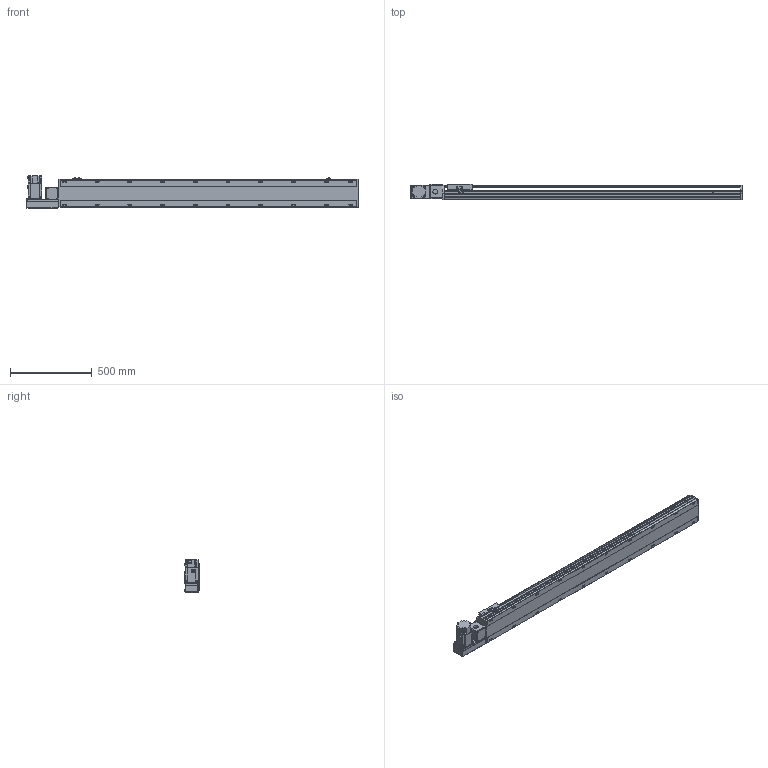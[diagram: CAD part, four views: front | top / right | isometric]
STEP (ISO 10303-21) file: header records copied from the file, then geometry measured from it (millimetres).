
FILE_DESCRIPTION( ( 'STEP AP214' ), '1' );
FILE_NAME( 'x:/temp/worker_2/temp/exporttempdir_1320_71_joOHi/format_0/PBS170-P40-S1550-L-T75-C1-N(0).stp', '2022-06-07T06:56:17', ( 'License CC BY-ND 4.0' ), ( 'CADENAS' ), ' ', 'PARTsolutions', ' ' );
FILE_SCHEMA( ( 'AUTOMOTIVE_DESIGN { 1 0 10303 214 1 1 1 1 }' ) );
Length unit declared in the file: millimetre
Products named in the file (7): PBS170-P40-S1550-L-T75-C1-N(0); _PBS170-S1550()_body; _PBS170T-L_motors; _T75-p1; _PBS170_sliser; _PBS170_plant; _PBS170_sensor
Assembly tree (8 placements, depth 2):
  PBS170-P40-S1550-L-T75-C1-N(0)
    _PBS170-S1550()_body
    _PBS170T-L_motors
    _T75-p1
    _PBS170_sliser
    _PBS170_plant
    _PBS170_sensor  x3
Bounding box: 2028 x 97 x 197.3 mm (x, y, z)
Volume: 14909919.6 mm3; surface area: 1912760.8 mm2
Topology: 8 solids, 8 shells, 1114 faces, 2955 edges, 1926 vertices
Faces by surface type: plane 699, cylinder 355, cone 50, sphere 8, torus 2
Full cylindrical faces by diameter (mm): 3.242 x4, 4 x2, 4.4 x4, 4.5 x6, 4.917 x4, 6 x9, 6.647 x28, 7 x2, 7.5 x4, 8 x8, 8.5 x20, 10 x4, 10.5 x20, 11 x2, 30 x2, 40 x1, 70 x1
Entity records: 41024 total; most frequent: CARTESIAN_POINT 6557, DIRECTION 5440, ORIENTED_EDGE 5148, EDGE_CURVE 2574, AXIS2_PLACEMENT_3D 1897, VERTEX_POINT 1778, LINE 1646, VECTOR 1646
